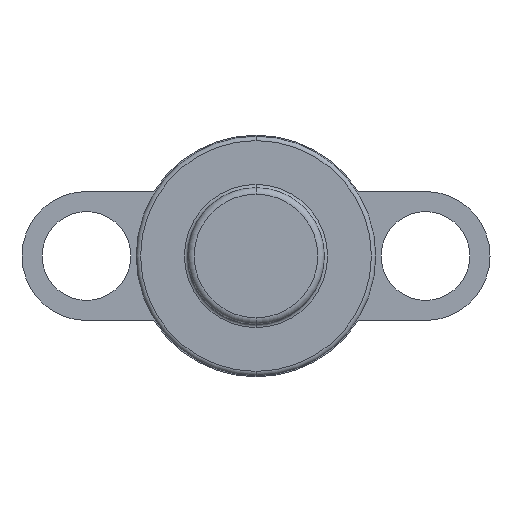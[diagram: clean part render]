
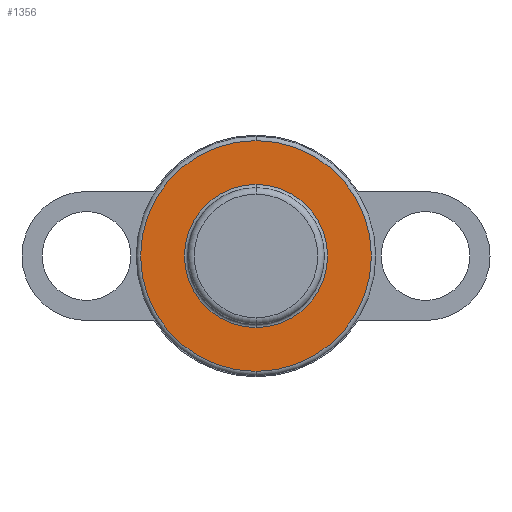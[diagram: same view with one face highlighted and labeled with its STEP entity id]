
A CAD part, front view. The second image highlights one B-rep face of the part: STEP entity #1356.
In plain terms, the highlighted planar face has unit normal (0, -1, 0).
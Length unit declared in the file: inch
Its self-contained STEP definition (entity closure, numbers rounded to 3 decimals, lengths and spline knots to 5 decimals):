
#58 = ORIENTED_EDGE ( 'NONE', *, *, #461, .T. ) ;
#94 = CARTESIAN_POINT ( 'NONE',  ( 0., 0., -0.3275 ) ) ;
#113 = VERTEX_POINT ( 'NONE', #962 ) ;
#160 = AXIS2_PLACEMENT_3D ( 'NONE', #317, #428, #917 ) ;
#213 = CIRCLE ( 'NONE', #993, 0.5275 ) ;
#277 = CARTESIAN_POINT ( 'NONE',  ( 0., 0., 0. ) ) ;
#278 = EDGE_CURVE ( 'NONE', #1047, #113, #476, .T. ) ;
#290 = PLANE ( 'NONE',  #1501 ) ;
#292 = DIRECTION ( 'NONE',  ( 0., -1., 0. ) ) ;
#296 = AXIS2_PLACEMENT_3D ( 'NONE', #1443, #1344, #1558 ) ;
#317 = CARTESIAN_POINT ( 'NONE',  ( 0., 0., 0. ) ) ;
#378 = DIRECTION ( 'NONE',  ( 0., 0., 1. ) ) ;
#393 = VERTEX_POINT ( 'NONE', #1535 ) ;
#428 = DIRECTION ( 'NONE',  ( 0., 1., 0. ) ) ;
#461 = EDGE_CURVE ( 'NONE', #393, #1476, #1295, .T. ) ;
#476 = CIRCLE ( 'NONE', #869, 0.3275 ) ;
#511 = DIRECTION ( 'NONE',  ( 0., 1., 0. ) ) ;
#574 = EDGE_CURVE ( 'NONE', #1476, #393, #213, .T. ) ;
#628 = CARTESIAN_POINT ( 'NONE',  ( 0., 0., 0. ) ) ;
#691 = ORIENTED_EDGE ( 'NONE', *, *, #278, .T. ) ;
#762 = CIRCLE ( 'NONE', #160, 0.3275 ) ;
#853 = EDGE_CURVE ( 'NONE', #113, #1047, #762, .T. ) ;
#869 = AXIS2_PLACEMENT_3D ( 'NONE', #628, #1234, #1134 ) ;
#894 = CARTESIAN_POINT ( 'NONE',  ( -0.5475, 0., 0. ) ) ;
#897 = ORIENTED_EDGE ( 'NONE', *, *, #574, .T. ) ;
#917 = DIRECTION ( 'NONE',  ( 0., 0., 1. ) ) ;
#927 = CARTESIAN_POINT ( 'NONE',  ( 0., 0., 0.5275 ) ) ;
#962 = CARTESIAN_POINT ( 'NONE',  ( 0., 0., 0.3275 ) ) ;
#993 = AXIS2_PLACEMENT_3D ( 'NONE', #277, #292, #378 ) ;
#1010 = EDGE_LOOP ( 'NONE', ( #897, #58 ) ) ;
#1034 = EDGE_LOOP ( 'NONE', ( #1043, #691 ) ) ;
#1043 = ORIENTED_EDGE ( 'NONE', *, *, #853, .T. ) ;
#1047 = VERTEX_POINT ( 'NONE', #94 ) ;
#1118 = DIRECTION ( 'NONE',  ( 0., 0., 1. ) ) ;
#1134 = DIRECTION ( 'NONE',  ( 0., 0., 1. ) ) ;
#1221 = FACE_BOUND ( 'NONE', #1034, .T. ) ;
#1234 = DIRECTION ( 'NONE',  ( 0., 1., 0. ) ) ;
#1295 = CIRCLE ( 'NONE', #296, 0.5275 ) ;
#1344 = DIRECTION ( 'NONE',  ( 0., -1., 0. ) ) ;
#1356 = ADVANCED_FACE ( 'NONE', ( #1221, #1392 ), #290, .F. ) ;
#1392 = FACE_OUTER_BOUND ( 'NONE', #1010, .T. ) ;
#1443 = CARTESIAN_POINT ( 'NONE',  ( 0., 0., 0. ) ) ;
#1476 = VERTEX_POINT ( 'NONE', #927 ) ;
#1501 = AXIS2_PLACEMENT_3D ( 'NONE', #894, #511, #1118 ) ;
#1535 = CARTESIAN_POINT ( 'NONE',  ( 0., 0., -0.5275 ) ) ;
#1558 = DIRECTION ( 'NONE',  ( 0., 0., 1. ) ) ;
